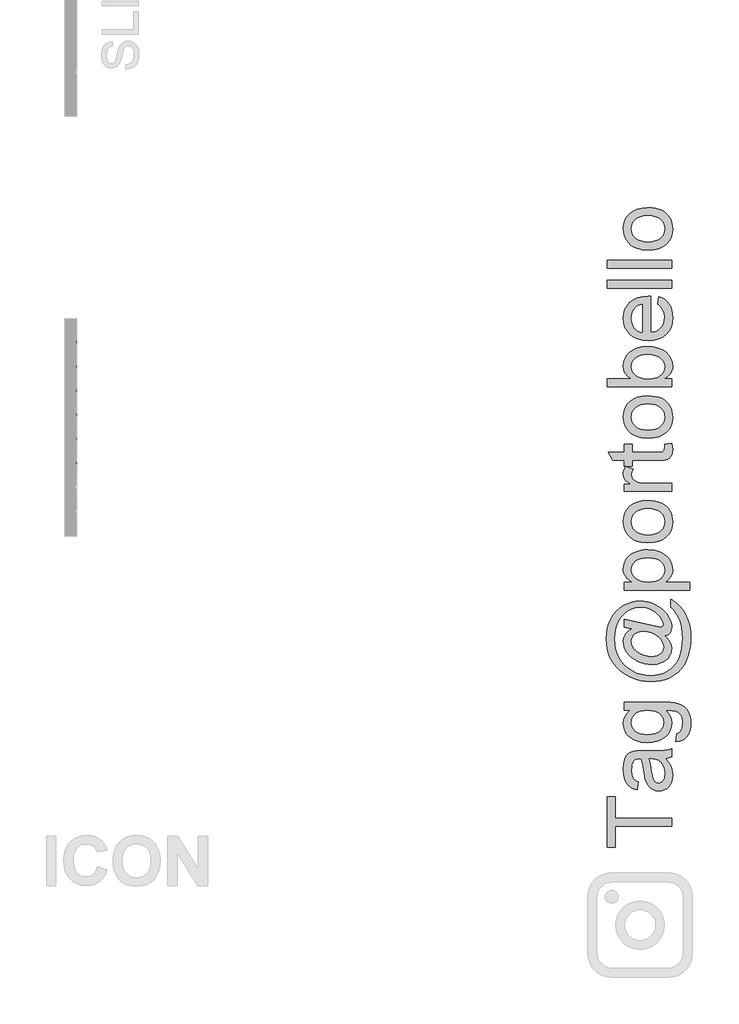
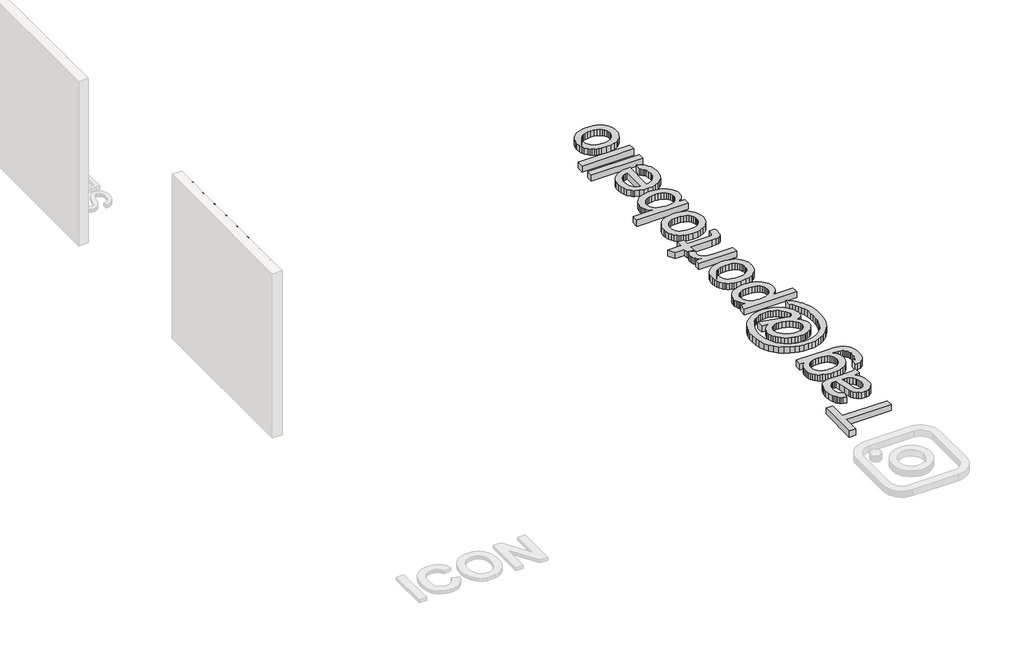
# One storey, part 3 of 4: 20 proxies.
"""IFC4 building model written with IfcOpenShell, lengths in millimetres."""

import ifcopenshell
import ifcopenshell.guid

model = None  # the IFC model being written
_history = None  # IfcOwnerHistory: only IFC2X3 demands one
_inside = {}  # id of a spatial element -> (the spatial element, [elements in it])
_under = {}  # id of a project, library or spatial element -> (it, [spatial elements below it])
_declared = {}  # id of a project -> (the project, [libraries it declares])
_typed = {}  # id of a type object -> (the type object, [elements of that type])
_made_of = {}  # id of a material, layer set ... -> (it, [elements and type objects made of it])


def new_model(schema):
    """Start an empty IFC model of exactly this schema.

    Asked for "IFC4X3", IfcOpenShell would pick the latest addendum, in which some entities
    have other attributes; the version numbers below select the first issue.
    IFC2X3 requires an IfcOwnerHistory on every rooted entity: one is made here for all.
    """
    global model, _history
    if schema == "IFC4X3":
        model = ifcopenshell.file(schema_version=(4, 3, 0, 0))
    else:
        model = ifcopenshell.file(schema=schema)
    _inside.clear()
    _under.clear()
    _declared.clear()
    _typed.clear()
    _made_of.clear()
    _history = None
    if model.schema == "IFC2X3":
        org = make("IfcOrganization", Name="unknown")
        user = make(
            "IfcPersonAndOrganization",
            ThePerson=make("IfcPerson", FamilyName="unknown"),
            TheOrganization=org,
        )
        app = make(
            "IfcApplication",
            ApplicationDeveloper=org,
            Version="unknown",
            ApplicationFullName="unknown",
            ApplicationIdentifier="unknown",
        )
        _history = make(
            "IfcOwnerHistory",
            OwningUser=user,
            OwningApplication=app,
            ChangeAction="ADDED",
            CreationDate=0,
        )
    return model


def make(cls, **values):
    """One entity of the class cls with the attributes given. An attribute that is None is left unset."""
    return model.create_entity(
        cls, **{name: value for name, value in values.items() if value is not None}
    )


def rooted(cls, **values):
    """An entity with a GlobalId (a new one), such as an element, a storey or a relation."""
    return make(cls, GlobalId=ifcopenshell.guid.new(), OwnerHistory=_history, **values)


def si_unit(unit_type, name, prefix=None):
    """IfcSIUnit, for example si_unit("LENGTHUNIT", "METRE", prefix="MILLI")."""
    return make("IfcSIUnit", UnitType=unit_type, Prefix=prefix, Name=name)


def assignment(units):
    """IfcUnitAssignment: the units of a project."""
    return None if units is None else make("IfcUnitAssignment", Units=units)


def point(xyz):
    """IfcCartesianPoint."""
    return None if xyz is None else make("IfcCartesianPoint", Coordinates=xyz)


def direction(xyz):
    """IfcDirection."""
    return None if xyz is None else make("IfcDirection", DirectionRatios=xyz)


def frame(location, z_axis=None, x_axis=None):
    """IfcAxis2Placement3D, a coordinate frame: its origin and axes. An axis left out is left unset."""
    return make(
        "IfcAxis2Placement3D",
        Location=point(location),
        Axis=direction(z_axis),
        RefDirection=direction(x_axis),
    )


def origin():
    """The frame at (0, 0, 0) with its axes left unset."""
    return frame((0.0, 0.0, 0.0))


def origin_with_axes():
    """The frame at (0, 0, 0) with the z axis (0, 0, 1) and the x axis (1, 0, 0) written out."""
    return frame((0.0, 0.0, 0.0), z_axis=(0.0, 0.0, 1.0), x_axis=(1.0, 0.0, 0.0))


def place(relative_to, where):
    """IfcLocalPlacement: puts the frame where relative to a parent placement (None: the world)."""
    return make(
        "IfcLocalPlacement", PlacementRelTo=relative_to, RelativePlacement=where
    )


def context(
    kind, dimensions, precision=None, world=None, true_north=None, identifier=None
):
    """IfcGeometricRepresentationContext, for example the 3D "Model" context."""
    return make(
        "IfcGeometricRepresentationContext",
        ContextIdentifier=identifier,
        ContextType=kind,
        CoordinateSpaceDimension=dimensions,
        Precision=precision,
        WorldCoordinateSystem=world,
        TrueNorth=true_north,
    )


def project(units=None, contexts=None):
    """IfcProject with its units and contexts."""
    return rooted(
        "IfcProject",
        Name="project",
        RepresentationContexts=contexts,
        UnitsInContext=assignment(units),
    )


def spatial(cls, under=None, at=None, **own):
    """A site, building, storey or space (cls), placed at a placement, below another one or the project."""
    s = rooted(cls, ObjectPlacement=at, **own)
    if under is not None:
        _under.setdefault(under.id(), (under, []))[1].append(s)
    return s


def polyline(points):
    """IfcPolyline through the points."""
    return make("IfcPolyline", Points=[point(p) for p in points])


def outline(outer, holes=None, kind="AREA"):
    """IfcArbitraryClosedProfileDef: a profile drawn as a closed curve; with holes, ...WithVoids."""
    if holes is None:
        return make("IfcArbitraryClosedProfileDef", ProfileType=kind, OuterCurve=outer)
    return make(
        "IfcArbitraryProfileDefWithVoids",
        ProfileType=kind,
        OuterCurve=outer,
        InnerCurves=holes,
    )


def extrude(swept, where, along, depth):
    """IfcExtrudedAreaSolid: the profile swept, set in the frame where, extruded along a direction by depth."""
    return make(
        "IfcExtrudedAreaSolid",
        SweptArea=swept,
        Position=where,
        ExtrudedDirection=direction(along),
        Depth=depth,
    )


def shape(context_of_items, identifier, shape_type, items):
    """IfcShapeRepresentation: the items that make up one representation, for example the "Body"."""
    return make(
        "IfcShapeRepresentation",
        ContextOfItems=context_of_items,
        RepresentationIdentifier=identifier,
        RepresentationType=shape_type,
        Items=items,
    )


def source(mapping_origin, context_of_items, identifier, shape_type, items):
    """IfcRepresentationMap: a shape defined once, which mapped items show again and again."""
    return make(
        "IfcRepresentationMap",
        MappingOrigin=mapping_origin,
        MappedRepresentation=shape(context_of_items, identifier, shape_type, items),
    )


def transform(
    local_origin,
    x_axis=None,
    y_axis=None,
    z_axis=None,
    scale=None,
    scale2=None,
    scale3=None,
    uniform=True,
):
    """IfcCartesianTransformationOperator3D, or its non-uniform kind. x_axis, y_axis, z_axis: its Axis1, 2, 3."""
    if uniform:
        return make(
            "IfcCartesianTransformationOperator3D",
            Axis1=direction(x_axis),
            Axis2=direction(y_axis),
            LocalOrigin=point(local_origin),
            Scale=scale,
            Axis3=direction(z_axis),
        )
    return make(
        "IfcCartesianTransformationOperator3DnonUniform",
        Axis1=direction(x_axis),
        Axis2=direction(y_axis),
        LocalOrigin=point(local_origin),
        Scale=scale,
        Axis3=direction(z_axis),
        Scale2=scale2,
        Scale3=scale3,
    )


def mapped(mapping_source, mapping_target):
    """IfcMappedItem: shows the shape of a source again, moved by a transform."""
    return make(
        "IfcMappedItem", MappingSource=mapping_source, MappingTarget=mapping_target
    )


def made_of(thing, what):
    """Note that an element or type object is made of a material, layer set ...; save() writes the relation."""
    if what is not None:
        _made_of.setdefault(what.id(), (what, []))[1].append(thing)
    return thing


def element(
    cls,
    number,
    at=None,
    inside=None,
    cuts=None,
    type_object=None,
    material=None,
    context=None,
    identifier="Body",
    shape_type=None,
    held_by="IfcProductDefinitionShape",
    body=None,
    shapes=None,
    **own,
):
    """One element of the class cls, such as IfcWall. Its Tag is "e" and its number.

    at: its placement. inside: the storey or other place that contains it. cuts: it is an
    opening in that element (IfcRelVoidsElement). A single representation is given by context,
    identifier, shape_type and body (its items); several are given by shapes. held_by: the class
    of the entity that holds the representations. save() writes the other relations.
    """
    e = rooted(cls, Tag="e%d" % number, ObjectPlacement=at, **own)
    if body is not None:
        shapes = [shape(context, identifier, shape_type, body)]
    if shapes is not None:
        e.Representation = make(held_by, Representations=shapes)
    if inside is not None:
        _inside.setdefault(inside.id(), (inside, []))[1].append(e)
    if cuts is not None:
        rooted(
            "IfcRelVoidsElement", RelatingBuildingElement=cuts, RelatedOpeningElement=e
        )
    if type_object is not None:
        _typed.setdefault(type_object.id(), (type_object, []))[1].append(e)
    return made_of(e, material)


def aggregate(whole, parts):
    """IfcRelAggregates: a whole, such as a stair, and the parts it consists of."""
    return rooted("IfcRelAggregates", RelatingObject=whole, RelatedObjects=parts)


def save(model, path):
    """Write the relations noted so far, then the file.

    IfcRelAggregates (storeys below a building ...), IfcRelContainedInSpatialStructure (elements
    in a storey), IfcRelDefinesByType, IfcRelAssociatesMaterial and IfcRelDeclares: one each for
    every whole, place, type object, material and project.
    """
    for whole, parts in _under.values():
        aggregate(whole, parts)
    for where, things in _inside.values():
        rooted(
            "IfcRelContainedInSpatialStructure",
            RelatedElements=things,
            RelatingStructure=where,
        )
    for kind, things in _typed.values():
        rooted("IfcRelDefinesByType", RelatedObjects=things, RelatingType=kind)
    for what, things in _made_of.values():
        rooted("IfcRelAssociatesMaterial", RelatedObjects=things, RelatingMaterial=what)
    for by, libraries in _declared.values():
        rooted("IfcRelDeclares", RelatingContext=by, RelatedDefinitions=libraries)
    model.write(path)


def black_7f78d727(model_context):
    return source(origin(), model_context, "Body", "SweptSolid", [
        extrude(outline(polyline([(1.0, -5.0), (-9.0, -5.0), (-9.0, -2.7289948), (-7.7920635, -2.7289948), (-6.5210583, -4.0), (0.0, -4.0), (0.0, 4.0), (-9.0, 4.0), (-9.0, 23.9106111), (-8.0, 23.9106111), (-8.0, 5.0), (1.0, 5.0), (1.0, -5.0)])), frame((0.0, -600.0, 0.0), z_axis=(0.0, 1.0, 0.0), x_axis=(0.0, 0.0, 1.0)), (0.0, 0.0, 1.0), 1200.0),
    ])


def black_fe5eff52(model_context):
    return source(origin(), model_context, "Body", "SweptSolid", [
        extrude(outline(polyline([(1.0, -5.0), (-9.0, -5.0), (-9.0, -2.7289948), (-7.7920635, -2.7289948), (-6.5210583, -4.0), (0.0, -4.0), (0.0, 4.0), (-9.0, 4.0), (-9.0, 23.9106111), (-8.0, 23.9106111), (-8.0, 5.0), (1.0, 5.0), (1.0, -5.0)])), frame((0.0, -600.0, 0.0), z_axis=(0.0, 1.0, 0.0), x_axis=(0.0, 0.0, 1.0)), (0.0, 0.0, 1.0), 300.0),
    ])


model = new_model("IFC4")

# Units and contexts
model_context = context("Model", 3, world=origin())
ifc_project = project(units=[si_unit("LENGTHUNIT", "METRE", prefix="MILLI")], contexts=[model_context])

# Site, building, storey
site = spatial("IfcSite", under=ifc_project)
building = spatial("IfcBuilding", under=site)
storey = spatial("IfcBuildingStorey", under=building, Name="PORTOBELLO - SHOWROOM", Elevation=0.0)

# Proxies
placement = place(None, origin())
black_shape = black_7f78d727(model_context)
element("IfcBuildingElementProxy", 1, Name="PORTOBELLO - ICON 1X120 : TERRACOTA", ObjectType="PORTOBELLO - ICON 1X120 : TERRACOTA", at=placement, inside=storey, context=model_context, shape_type="MappedRepresentation", body=[
    mapped(black_shape, transform((55225.3154392, 20124.9733076, 1800.0), x_axis=(0.0, 1.0, 0.0), y_axis=(0.0, 0.0, 1.0), z_axis=(1.0, 0.0, 0.0))),
])
element("IfcBuildingElementProxy", 2, Name="PORTOBELLO - ICON 1X120 : TERRACOTA", ObjectType="PORTOBELLO - ICON 1X120 : TERRACOTA", at=placement, inside=storey, context=model_context, shape_type="MappedRepresentation", body=[
    mapped(black_shape, transform((55225.3154392, 20124.9733076, 600.0), x_axis=(0.0, 1.0, 0.0), y_axis=(0.0, 0.0, 1.0), z_axis=(1.0, 0.0, 0.0))),
])
black_2_shape = black_fe5eff52(model_context)
element("IfcBuildingElementProxy", 3, Name="PORTOBELLO - ICON 1X120 : TERRACOTA", ObjectType="PORTOBELLO - ICON 1X120 : TERRACOTA", at=placement, inside=storey, context=model_context, shape_type="MappedRepresentation", body=[
    mapped(black_2_shape, transform((55225.3154392, 20124.9733076, 3000.0), x_axis=(0.0, 1.0, 0.0), y_axis=(0.0, 0.0, 1.0), z_axis=(1.0, 0.0, 0.0))),
])
element("IfcBuildingElementProxy", 4, Name="80mm Arial", ObjectType="80mm Arial", at=placement, inside=storey, context=model_context, shape_type="SweptSolid", body=[
    extrude(outline(polyline([(62608.6356117, 15626.1462378), (61909.1705007, 15626.1462378), (61909.1705007, 15363.8468212), (61809.2469134, 15363.8468212), (61809.2469134, 15988.3692417), (61909.1705007, 15988.3692417), (61909.1705007, 15726.0698251), (62608.6356117, 15726.0698251), (62608.6356117, 15626.1462378)])), origin_with_axes(), (0.0, 0.0, 1.0), 100.0),
    extrude(outline(polyline([(62533.6929213, 16463.0062814), (62574.6284143, 16415.2644698), (62589.7901598, 16390.8629639), (62601.4145713, 16366.1077246), (62616.1981879, 16314.413857), (62621.1260602, 16259.0606784), (62618.1620182, 16214.5695548), (62609.2698923, 16175.5552001), (62594.4496825, 16142.0176142), (62573.7013888, 16113.9567973), (62548.3423632, 16091.7996688), (62519.6899576, 16075.9731485), (62487.7441721, 16066.4772363), (62452.5050066, 16063.3119322), (62411.0816054, 16068.093432), (62373.4638877, 16082.4379313), (62341.2619504, 16104.5645655), (62316.0858903, 16132.6924699), (62297.0574728, 16165.7482464), (62283.2984633, 16202.6584973), (62268.2708925, 16289.1158199), (62252.4626688, 16391.2837846), (62233.9221594, 16462.4207916), (62211.6735482, 16463.0062814), (62187.448909, 16461.2864052), (62167.0787441, 16456.1267766), (62150.5630535, 16447.5273956), (62137.9018372, 16435.4882622), (62125.2650164, 16414.67898), (62116.2387158, 16389.3321521), (62110.8229354, 16359.4477784), (62109.0176753, 16325.0258591), (62113.8235705, 16265.5010659), (62119.8309395, 16242.4718016), (62128.241256, 16223.9312923), (62139.7131962, 16208.6963605), (62154.9054359, 16195.5838293), (62173.8179753, 16184.5936984), (62196.4508142, 16175.7259679), (62183.9603657, 16075.8023806), (62129.3146539, 16093.147515), (62106.3829713, 16105.0219794), (62086.3787375, 16119.0310419), (62068.8994284, 16135.7784889), (62053.5425196, 16155.8681066), (62040.3080113, 16179.299895), (62029.1959034, 16206.0738543), (62014.1195418, 16267.4770938), (62009.094088, 16337.906634), (62013.5340521, 16405.4575161), (62026.8539443, 16459.0054346), (62046.8825735, 16499.3798333), (62071.4487484, 16527.410156), (62101.8210302, 16545.9994562), (62139.26798, 16558.0507873), (62173.8118764, 16561.7100983), (62226.7011189, 16562.9298687), (62351.0201133, 16562.9298687), (62459.3113252, 16564.1984298), (62524.6178298, 16568.0041133), (62567.5293509, 16575.5178987), (62608.6356117, 16587.9107655), (62608.6356117, 16487.9871782), (62573.8965521, 16471.9837912), (62533.6929213, 16463.0062814)]), holes=[polyline([(62333.8457467, 16463.0062814), (62350.4834143, 16395.8701212), (62364.4863779, 16301.8014316), (62372.1465358, 16249.9611916), (62380.6849282, 16215.8320171), (62391.760443, 16193.4614288), (62407.0319678, 16176.8969475), (62425.3285231, 16166.6508765), (62445.4791294, 16163.2355195), (62461.006806, 16165.0956693), (62475.1927352, 16170.6761187), (62488.036917, 16179.9768676), (62499.5393514, 16192.9979161), (62509.016967, 16209.6172872), (62515.7866925, 16229.7130037), (62521.2024729, 16280.3334734), (62515.2255981, 16334.0033689), (62507.7545047, 16358.4963576), (62497.2949739, 16381.4280402), (62470.8747481, 16419.8752017), (62439.4290684, 16446.6125678), (62407.0319678, 16458.4687357), (62362.1444189, 16462.4207916), (62333.8457467, 16463.0062814)])]), origin_with_axes(), (0.0, 0.0, 1.0), 100.0),
    extrude(outline(polyline([(62658.5974054, 16675.3439044), (62671.0878538, 16775.2674917), (62687.9206847, 16779.4878971), (62702.3139748, 16786.2942157), (62714.2677243, 16795.6864474), (62723.781933, 16807.6645922), (62733.5157004, 16827.0467431), (62740.4683915, 16849.6734832), (62746.0305443, 16904.6607307), (62744.4570405, 16935.8624563), (62739.7365292, 16963.3072892), (62731.8690105, 16986.9952295), (62720.8544842, 17006.9262771), (62706.997893, 17023.5151539), (62690.6041794, 17037.1765818), (62671.6733436, 17047.9105609), (62650.2053854, 17055.7170912), (62607.2206781, 17061.1328715), (62533.6929213, 17062.5478051), (62566.4803484, 17029.2968653), (62589.8999391, 16992.1914512), (62603.9516936, 16951.2315628), (62608.6356117, 16906.4172), (62603.1832383, 16851.6312146), (62586.8261178, 16803.395396), (62574.5582775, 16781.7337993), (62559.5642505, 16761.7097442), (62521.3976361, 16726.5742592), (62475.6074571, 16698.6964078), (62425.4748956, 16678.7836568), (62370.9999516, 16666.8360062), (62312.1826252, 16662.853456), (62271.0336724, 16664.6404195), (62231.5070141, 16670.0013102), (62193.6026504, 16678.9361281), (62157.3205812, 16691.444873), (62123.8683793, 16707.3384807), (62094.4536173, 16726.4278867), (62069.0762951, 16748.7130911), (62047.7364128, 16774.1940938), (62030.8303957, 16802.4622717), (62018.7546692, 16833.1090018), (62011.5092333, 16866.1342841), (62009.094088, 16901.5381186), (62014.5586592, 16948.2675208), (62030.9523727, 16990.678936), (62058.2752286, 17028.7723641), (62096.5272269, 17062.5478051), (62021.5845364, 17062.5478051), (62021.5845364, 17162.4713924), (62528.4235133, 17162.4713924), (62591.9308568, 17160.7637139), (62645.448281, 17155.6406785), (62688.975786, 17147.102286), (62722.5133719, 17135.1485365), (62749.5617794, 17119.4927841), (62773.6217496, 17099.8483825), (62794.6932825, 17076.2153319), (62812.776378, 17048.5936323), (62827.2916452, 17017.2638308), (62837.6596932, 16982.5064746), (62843.880522, 16944.3215637), (62845.9541316, 16902.7090981), (62843.0327816, 16853.753615), (62834.2687316, 16809.7382018), (62819.6619816, 16770.6628586), (62799.2125316, 16736.5275853), (62772.8959863, 16708.9546764), (62740.6879501, 16689.5664267), (62702.5884232, 16678.362836), (62658.5974054, 16675.3439044)]), holes=[polyline([(62305.3519112, 16762.7770433), (62354.7587094, 16765.4422415), (62397.0054555, 16773.4378361), (62432.0921497, 16786.7638272), (62460.018792, 16805.4202148), (62481.3220812, 16828.1018445), (62496.5387163, 16853.5035621), (62505.6686974, 16881.6253676), (62508.7120244, 16912.4672609), (62505.686994, 16943.0042117), (62496.6119025, 16970.9918425), (62481.4867502, 16996.4301532), (62460.3115369, 17019.3191438), (62432.659343, 17038.2316832), (62398.1032489, 17051.7406398), (62356.6432546, 17059.8460138), (62308.2793601, 17062.5478051), (62261.9341855, 17059.7667287), (62221.6512696, 17051.4234995), (62187.4306124, 17037.5181175), (62159.2722138, 17018.0505827), (62137.2858532, 16994.667585), (62121.5813099, 16969.0158145), (62112.1585839, 16941.0952711), (62109.0176753, 16910.9059549), (62112.1097931, 16881.2228434), (62121.3861467, 16853.8450978), (62136.8467359, 16828.7727182), (62158.4915608, 16806.0057046), (62186.2230397, 16787.0931652), (62219.9435912, 16773.5842086), (62259.653215, 16765.4788346), (62305.3519112, 16762.7770433)])]), origin_with_axes(), (0.0, 0.0, 1.0), 100.0),
])
element("IfcBuildingElementProxy", 5, Name="80mm Arial", ObjectType="80mm Arial", at=placement, inside=storey, context=model_context, shape_type="SweptSolid", body=[
    extrude(outline(polyline([(62517.1040445, 17993.5543457), (62554.4046219, 17956.3025591), (62583.5571333, 17914.8059717), (62602.3659921, 17871.1137977), (62608.6356117, 17827.2752512), (62606.8425493, 17803.3433569), (62601.4633621, 17779.7529982), (62592.49805, 17756.5041753), (62579.946613, 17733.5968881), (62563.6748765, 17711.9276678), (62543.5486657, 17692.3930456), (62519.5679806, 17674.9930215), (62491.7328211, 17659.7275955), (62461.2385623, 17647.3042345), (62429.2805791, 17638.4304052), (62395.8588714, 17633.1061076), (62360.9734393, 17631.3313417), (62317.1348929, 17634.0819239), (62273.2475556, 17642.3336703), (62229.3114275, 17656.086581), (62185.3265085, 17675.3406561), (62144.0616775, 17698.6870606), (62108.2858131, 17724.7169599), (62077.9989152, 17753.430354), (62053.2009839, 17784.8272429), (62033.904217, 17817.328024), (62020.120812, 17849.3530946), (62011.850769, 17880.9024547), (62009.094088, 17911.9761045), (62010.6614929, 17935.1395435), (62015.3637076, 17957.7906789), (62034.1725664, 18001.5560392), (62048.3523968, 18022.1823558), (62065.8134094, 18041.3205527), (62110.5789813, 18075.1325869), (62021.5845364, 18093.477933), (62021.5845364, 18193.4015203), (62388.101132, 18110.6522995), (62472.606822, 18093.477933), (62486.390227, 18096.2834048), (62498.075627, 18104.6998202), (62506.0529251, 18117.0682916), (62508.7120244, 18131.7299312), (62506.7359965, 18147.4039803), (62500.8079126, 18165.3468021), (62477.0955769, 18208.0387645), (62454.7310875, 18237.6364921), (62428.8170663, 18263.9774329), (62399.3535135, 18287.0615868), (62366.3404289, 18306.8889539), (62331.2781301, 18322.8130558), (62295.6669346, 18334.1874144), (62259.5068425, 18341.0120295), (62222.7978538, 18343.2869012), (62180.3742409, 18340.3594523), (62139.3655617, 18331.5771058), (62099.771816, 18316.9398616), (62061.593004, 18296.4477197), (62025.9940062, 18270.143372), (61994.1397035, 18238.0695106), (61966.0300957, 18200.2261354), (61941.6651829, 18156.6132464), (61921.9841882, 18108.9019291), (61907.9263349, 18058.7632687), (61899.4916229, 18006.1972654), (61896.6800523, 17951.203919), (61900.2478806, 17888.4711298), (61910.9513654, 17828.4950215), (61928.7905068, 17771.2755943), (61953.7653048, 17716.8128481), (61985.4000489, 17666.7168797), (62023.2190287, 17622.597786), (62067.2222441, 17584.4555671), (62117.4096953, 17552.2902229), (62171.6406852, 17526.7604294), (62227.7745168, 17508.5248626), (62285.8111902, 17497.5835226), (62345.7507053, 17493.9364092), (62407.4405909, 17497.5469295), (62464.6783147, 17508.3784902), (62517.4638767, 17526.4310914), (62565.797277, 17551.7047331), (62608.8917635, 17583.8151876), (62645.9605845, 17622.3782273), (62677.00374, 17667.3938522), (62702.0212299, 17718.8620622), (62721.275305, 17775.0263881), (62735.0282157, 17834.1303606), (62743.2799621, 17896.1739796), (62746.0305443, 17961.1572451), (62743.2982587, 18029.4033963), (62735.1014019, 18091.8678361), (62721.439974, 18148.5505644), (62702.3139748, 18199.4515812), (62679.2847106, 18244.4489095), (62653.9134872, 18283.4205723), (62626.2003048, 18316.3665695), (62596.1451633, 18343.2869012), (62596.1451633, 18443.2104885), (62625.4562449, 18426.9814439), (62655.035676, 18405.8123295), (62684.8834565, 18379.7031451), (62714.9995865, 18348.6538907), (62743.6702886, 18313.5428011), (62769.1817856, 18275.2481109), (62791.5340773, 18233.7698201), (62810.7271638, 18189.1079286), (62826.1389622, 18140.4878824), (62837.1473896, 18087.1351271), (62843.7524461, 18029.0496629), (62845.9541316, 17966.2314898), (62844.0085978, 17907.3836691), (62838.1719967, 17850.8656098), (62828.4443281, 17796.6773119), (62814.8255922, 17744.8187753), (62797.3096899, 17695.997467), (62775.8905225, 17650.9208536), (62750.56809, 17609.5889352), (62721.3423923, 17572.0017118), (62688.975786, 17538.4946202), (62654.2306275, 17509.4030973), (62617.1069168, 17484.727143), (62577.604654, 17464.4667575), (62525.0569472, 17444.572303), (62470.4600262, 17430.3619784), (62413.813891, 17421.8357837), (62355.1185416, 17418.9937187), (62289.3607219, 17422.3846803), (62225.1886037, 17432.5575651), (62162.6021869, 17449.512373), (62101.6014715, 17473.249104), (62032.0562649, 17509.7080399), (61971.15923, 17553.1196667), (61918.910367, 17603.4839846), (61875.3096757, 17660.8009935), (61840.942646, 17724.8267393), (61816.3947677, 17795.317268), (61801.6660407, 17872.2725795), (61796.756465, 17955.6926739), (61800.1962174, 18021.1211556), (61810.5154746, 18083.1342804), (61827.7142365, 18141.7320481), (61851.7925033, 18196.9144589), (61882.6892863, 18247.5715216), (61920.3435971, 18292.5932453), (61964.7554357, 18331.97963), (62015.924802, 18365.7306757), (62063.8007883, 18388.6989514), (62113.7503842, 18405.1048627), (62165.7735898, 18414.9484094), (62219.8704049, 18418.2295917), (62258.6011631, 18416.528012), (62296.2402267, 18411.4232731), (62332.7875959, 18402.9153749), (62368.2432706, 18391.0043174), (62402.6072509, 18375.6901006), (62435.8795367, 18356.9727246), (62468.060128, 18334.8521892), (62499.1490249, 18309.3284946), (62547.0494066, 18259.5130734), (62581.263965, 18207.4532747), (62593.2390605, 18180.5817338), (62601.7927001, 18153.1490986), (62606.9248838, 18125.155369), (62608.6356117, 18096.6005451), (62605.7569537, 18063.276419), (62597.1209796, 18037.0757519), (62583.1668068, 18017.4130538), (62564.3335525, 18003.702835), (62545.5978799, 17997.6527741), (62517.1040445, 17993.5543457)]), holes=[polyline([(62362.5347454, 17731.254929), (62395.2489862, 17733.4444168), (62424.1087528, 17740.0128802), (62449.114045, 17750.9603191), (62470.2648629, 17766.2867336), (62487.0854961, 17784.4430153), (62499.1002341, 17803.8800558), (62506.3090769, 17824.5978553), (62508.7120244, 17846.5964136), (62504.4672236, 17877.6517668), (62491.7328211, 17910.3172168), (62470.6551894, 17943.0314577), (62441.380701, 17974.2331833), (62403.5190292, 18001.9219703), (62356.6798477, 18024.0973953), (62305.2543296, 18038.6614533), (62253.6336483, 18043.5161393), (62221.2060535, 18041.2412676), (62192.6207352, 18034.4166525), (62167.8776936, 18023.0422939), (62146.9769287, 18007.118192), (62130.3697553, 17987.9251055), (62118.5074886, 17966.7437933), (62111.3901286, 17943.5742555), (62109.0176753, 17918.4164919), (62113.1404991, 17884.8972027), (62125.5089704, 17853.4271276), (62146.9769287, 17823.4451723), (62178.3982129, 17794.3902425), (62218.7238208, 17768.6286926), (62266.9047497, 17748.5268772), (62316.8665434, 17735.5729161), (62362.5347454, 17731.254929)])]), origin_with_axes(), (0.0, 0.0, 1.0), 100.0),
    extrude(outline(polyline([(62833.4636831, 18555.6245242), (62021.5845364, 18555.6245242), (62021.5845364, 18655.5481115), (62119.5564911, 18655.5481115), (62071.2291897, 18688.1403753), (62052.2434642, 18705.9002316), (62036.7096888, 18724.6359043), (62024.6278634, 18744.8840921), (62015.9979882, 18767.1814942), (62010.820063, 18791.5281104), (62009.094088, 18817.9239408), (62011.5092333, 18852.7727798), (62018.7546692, 18885.4992184), (62030.8303957, 18916.1032565), (62047.7364128, 18944.5848943), (62069.0336031, 18970.3220487), (62094.2828494, 18992.692637), (62123.4841517, 19011.6966591), (62156.6375098, 19027.334115), (62192.6085375, 19039.5440162), (62230.2628483, 19048.2653742), (62269.6004422, 19053.4981891), (62310.6213192, 19055.2424607), (62354.4781622, 19053.2725315), (62396.0784301, 19047.3627442), (62435.4221228, 19037.5130986), (62472.5092404, 19023.7235947), (62506.3700654, 19006.1832971), (62536.0348803, 18985.08127), (62561.5036853, 18960.4175134), (62582.7764803, 18932.1920275), (62599.5544215, 18901.7892514), (62611.5386652, 18870.5936247), (62618.7292114, 18838.6051472), (62621.1260602, 18805.8238189), (62619.5220621, 18782.2395592), (62614.7100681, 18759.8872675), (62606.690078, 18738.7669438), (62595.4620919, 18718.8785882), (62566.4071621, 18683.7735974), (62530.5703092, 18655.5481115), (62833.4636831, 18655.5481115), (62833.4636831, 18555.6245242)]), holes=[polyline([(62319.7939922, 18655.5481115), (62367.9505257, 18658.2499028), (62409.3739269, 18666.3552768), (62444.0641958, 18679.8642335), (62472.0213322, 18698.7767728), (62493.5380813, 18721.5437864), (62508.9071877, 18746.616166), (62518.1286516, 18773.9939116), (62521.2024729, 18803.6770231), (62518.0188722, 18833.7870543), (62508.4680704, 18861.6649057), (62492.5500673, 18887.3105773), (62470.2648629, 18910.7240693), (62441.2953171, 18930.2342961), (62405.3242894, 18944.1701723), (62362.3517798, 18952.5316981), (62312.3777885, 18955.3188734), (62264.6359769, 18952.5987855), (62223.2857619, 18944.4385218), (62188.3271436, 18930.8380824), (62159.7601219, 18911.7974672), (62137.5603015, 18888.9755639), (62121.7032869, 18864.0312602), (62112.1890782, 18836.964556), (62109.0176753, 18807.7754515), (62112.3903403, 18778.6778297), (62122.5083354, 18751.3000842), (62139.3716605, 18725.6422148), (62162.9803157, 18701.7042216), (62193.0171606, 18681.5109234), (62229.165055, 18667.087139), (62271.4239989, 18658.4328684), (62319.7939922, 18655.5481115)])]), origin_with_axes(), (0.0, 0.0, 1.0), 100.0),
    extrude(outline(polyline([(62315.1100741, 19142.6755995), (62239.081788, 19148.0791822), (62205.0105526, 19154.8336605), (62173.5679223, 19164.2899302), (62144.7538972, 19176.4479912), (62118.5684771, 19191.3078435), (62095.0116622, 19208.8694872), (62074.0834524, 19229.1329221), (62045.6506055, 19267.2141525), (62025.3414291, 19309.2474389), (62013.1559233, 19355.2327812), (62009.094088, 19405.1701794), (62014.0402568, 19460.2977005), (62028.8787631, 19510.143616), (62053.609607, 19554.7079258), (62088.2327885, 19593.99063), (62131.5773279, 19626.0522938), (62182.4722459, 19648.9534821), (62240.9175424, 19662.6941951), (62306.9132173, 19667.2744328), (62360.4001473, 19665.249614), (62407.8614117, 19659.1751577), (62449.2970106, 19649.0510638), (62484.7069439, 19634.8773323), (62515.2926855, 19616.8308299), (62542.2557091, 19595.0884234), (62565.5960148, 19569.6501126), (62585.3136026, 19540.5158978), (62600.9815528, 19508.8201652), (62612.1729458, 19475.6973012), (62618.8877816, 19441.147306), (62621.1260602, 19405.1701794), (62616.1981879, 19349.2376099), (62601.4145713, 19298.9281817), (62576.7752101, 19254.2418948), (62542.2801046, 19215.1787493), (62498.5147443, 19183.4586213), (62446.0646191, 19160.801387), (62384.9297291, 19147.2070464), (62315.1100741, 19142.6755995)]), holes=[polyline([(62314.9149108, 19242.5991868), (62363.3824858, 19245.4900426), (62405.3486848, 19254.1626098), (62440.8135078, 19268.6168885), (62469.7769548, 19288.8528786), (62492.2756189, 19313.4678443), (62508.3460933, 19341.0590497), (62517.988378, 19371.6264947), (62521.2024729, 19405.1701794), (62517.9700814, 19438.5430963), (62508.2729071, 19468.9885643), (62492.1109499, 19496.5065834), (62469.4842099, 19521.0971538), (62440.2341168, 19541.3331439), (62404.2021006, 19555.7874226), (62361.3881612, 19564.4599898), (62311.7922987, 19567.3508455), (62264.8616344, 19564.4416932), (62223.9932287, 19555.7142364), (62189.1870817, 19541.1684749), (62160.4431933, 19520.8044089), (62137.9445292, 19496.1223558), (62121.8740548, 19468.6226332), (62112.2317702, 19438.3052411), (62109.0176753, 19405.1701794), (62112.2195725, 19371.6264947), (62121.825264, 19341.0590497), (62137.8347499, 19313.4678443), (62160.2480301, 19288.8528786), (62189.1260932, 19268.6168885), (62224.5299277, 19254.1626098), (62266.4595336, 19245.4900426), (62314.9149108, 19242.5991868)])]), origin_with_axes(), (0.0, 0.0, 1.0), 100.0),
    extrude(outline(polyline([(62608.6356117, 19779.6884685), (62021.5845364, 19779.6884685), (62021.5845364, 19867.1216074), (62108.4321855, 19867.1216074), (62058.0800653, 19899.4211263), (62040.6617447, 19914.6194649), (62028.4152504, 19929.183523), (62013.9243786, 19959.0435012), (62009.094088, 19991.635765), (62011.0213251, 20016.4214986), (62016.8030366, 20041.4023954), (62026.4392224, 20066.5784555), (62039.9298825, 20091.9496788), (62129.5098172, 20058.576762), (62114.1407108, 20023.4473758), (62109.0176753, 19988.3179897), (62113.9455475, 19958.4824068), (62128.7291642, 19931.8182269), (62152.2463366, 19910.2770825), (62183.374876, 19895.8106061), (62239.1915673, 19883.6616934), (62300.0825033, 19879.6120558), (62608.6356117, 19879.6120558), (62608.6356117, 19779.6884685)])), origin_with_axes(), (0.0, 0.0, 1.0), 100.0),
    extrude(outline(polyline([(62525.3009012, 20366.7395439), (62611.5630606, 20379.2299923), (62618.7353103, 20339.660642), (62621.1260602, 20304.4824651), (62616.978841, 20256.5210948), (62604.5371834, 20220.7574281), (62585.3623934, 20195.4837864), (62561.0157772, 20178.9924912), (62519.2020495, 20169.9173998), (62447.6259252, 20166.8923693), (62121.5081237, 20166.8923693), (62121.5081237, 20091.9496788), (62021.5845364, 20091.9496788), (62021.5845364, 20166.8923693), (61878.9201959, 20166.8923693), (61820.1760558, 20266.8159566), (62021.5845364, 20266.8159566), (62021.5845364, 20366.7395439), (62121.5081237, 20366.7395439), (62121.5081237, 20266.8159566), (62444.6984763, 20266.8159566), (62477.583485, 20268.1333086), (62496.221576, 20272.0853645), (62506.5408332, 20278.9892647), (62514.4693405, 20289.1621494), (62519.5191898, 20303.579835), (62521.2024729, 20323.2181377), (62525.3009012, 20366.7395439)])), origin_with_axes(), (0.0, 0.0, 1.0), 100.0),
    extrude(outline(polyline([(62315.1100741, 20441.6822343), (62239.081788, 20447.085817), (62205.0105526, 20453.8402953), (62173.5679223, 20463.296565), (62144.7538972, 20475.454626), (62118.5684771, 20490.3144783), (62095.0116622, 20507.876122), (62074.0834524, 20528.1395569), (62045.6506055, 20566.2207874), (62025.3414291, 20608.2540737), (62013.1559233, 20654.239416), (62009.094088, 20704.1768142), (62014.0402568, 20759.3043353), (62028.8787631, 20809.1502508), (62053.609607, 20853.7145606), (62088.2327885, 20892.9972648), (62131.5773279, 20925.0589286), (62182.4722459, 20947.9601169), (62240.9175424, 20961.70083), (62306.9132173, 20966.2810676), (62360.4001473, 20964.2562488), (62407.8614117, 20958.1817925), (62449.2970106, 20948.0576986), (62484.7069439, 20933.8839671), (62515.2926855, 20915.8374647), (62542.2557091, 20894.0950582), (62565.5960148, 20868.6567475), (62585.3136026, 20839.5225326), (62600.9815528, 20807.8268), (62612.1729458, 20774.703936), (62618.8877816, 20740.1539408), (62621.1260602, 20704.1768142), (62616.1981879, 20648.2442447), (62601.4145713, 20597.9348165), (62576.7752101, 20553.2485297), (62542.2801046, 20514.1853841), (62498.5147443, 20482.4652561), (62446.0646191, 20459.8080218), (62384.9297291, 20446.2136812), (62315.1100741, 20441.6822343)]), holes=[polyline([(62314.9149108, 20541.6058216), (62363.3824858, 20544.4966774), (62405.3486848, 20553.1692446), (62440.8135078, 20567.6235233), (62469.7769548, 20587.8595134), (62492.2756189, 20612.4744791), (62508.3460933, 20640.0656845), (62517.988378, 20670.6331295), (62521.2024729, 20704.1768142), (62517.9700814, 20737.5497311), (62508.2729071, 20767.9951991), (62492.1109499, 20795.5132183), (62469.4842099, 20820.1037886), (62440.2341168, 20840.3397787), (62404.2021006, 20854.7940574), (62361.3881612, 20863.4666246), (62311.7922987, 20866.3574803), (62264.8616344, 20863.448328), (62223.9932287, 20854.7208712), (62189.1870817, 20840.1751097), (62160.4431933, 20819.8110437), (62137.9445292, 20795.1289906), (62121.8740548, 20767.629268), (62112.2317702, 20737.3118759), (62109.0176753, 20704.1768142), (62112.2195725, 20670.6331295), (62121.825264, 20640.0656845), (62137.8347499, 20612.4744791), (62160.2480301, 20587.8595134), (62189.1260932, 20567.6235233), (62224.5299277, 20553.1692446), (62266.4595336, 20544.4966774), (62314.9149108, 20541.6058216)])]), origin_with_axes(), (0.0, 0.0, 1.0), 100.0),
    extrude(outline(polyline([(62608.6356117, 21178.6186906), (62608.6356117, 21078.6951033), (61809.2469134, 21078.6951033), (61809.2469134, 21178.6186906), (62105.6998999, 21178.6186906), (62063.4348572, 21211.4793039), (62033.245541, 21248.5847181), (62022.6792803, 21268.7292254), (62015.1319512, 21289.934933), (62009.094088, 21335.5299488), (62014.5342638, 21387.0042577), (62030.8547911, 21435.6486993), (62057.0310628, 21478.6821974), (62092.038472, 21513.3236754), (62135.5354827, 21540.4757635), (62187.1805595, 21561.0410916), (62244.8269063, 21573.9950527), (62306.3277275, 21578.3130398), (62377.2939666, 21573.8425815), (62439.7218133, 21560.4312064), (62493.6112675, 21538.0789147), (62538.9623292, 21506.7857063), (62574.9089615, 21469.2228783), (62600.5851274, 21428.0617278), (62615.990827, 21383.3022547), (62621.1260602, 21334.944459), (62619.4702219, 21310.7289681), (62614.5027071, 21287.8491257), (62606.2235159, 21266.3049319), (62594.6326481, 21246.0963865), (62579.7301038, 21227.2234898), (62561.515883, 21209.6862415), (62515.1524119, 21178.6186906), (62608.6356117, 21178.6186906)]), holes=[polyline([(62311.0116457, 21178.6186906), (62356.0455671, 21180.3263691), (62394.3463562, 21185.4494046), (62425.9140129, 21193.9877971), (62450.7485373, 21205.9415465), (62481.5721341, 21230.153988), (62503.588989, 21258.2940901), (62516.7991019, 21290.3618526), (62521.2024729, 21326.3572757), (62517.9578837, 21356.2416494), (62508.2241163, 21384.028018), (62492.0011706, 21409.7163816), (62469.2890466, 21433.3067403), (62440.1487329, 21453.0304269), (62404.641218, 21467.1187744), (62362.7665017, 21475.571783), (62314.5245843, 21478.3894525), (62265.3678391, 21475.6876612), (62223.0905987, 21467.5822872), (62187.692863, 21454.0733305), (62159.1746322, 21435.1607912), (62137.2309635, 21412.418173), (62121.5569145, 21387.4189796), (62112.1524851, 21360.1632111), (62109.0176753, 21330.6508674), (62112.2622644, 21300.7664937), (62121.9960318, 21272.9801251), (62138.2189775, 21247.2917615), (62160.9311015, 21223.7014029), (62189.7786703, 21203.9777163), (62224.4079506, 21189.8893687), (62264.8189424, 21181.4363601), (62311.0116457, 21178.6186906)])]), origin_with_axes(), (0.0, 0.0, 1.0), 100.0),
    extrude(outline(polyline([(62433.769334, 22101.7408935), (62446.2597824, 22199.7128483), (62485.4997946, 22184.6913764), (62520.0802841, 22164.4126943), (62550.0012509, 22138.8768019), (62575.2626949, 22108.0836994), (62595.3279172, 22072.3505269), (62609.6602188, 22031.9944248), (62618.2595998, 21987.015393), (62621.1260602, 21937.4134316), (62616.1798914, 21875.4125046), (62601.341385, 21820.1691053), (62576.6105411, 21771.6832338), (62541.9873597, 21729.95489), (62498.4354592, 21696.3990076), (62446.9184584, 21672.4305202), (62387.4363571, 21658.0494278), (62319.9891555, 21653.2557303), (62250.2548844, 21658.0982186), (62188.7906563, 21672.6256835), (62135.5964713, 21696.838125), (62112.1006448, 21712.5762119), (62090.6723292, 21730.7355431), (62054.9818487, 21772.3541075), (62029.4886483, 21819.729988), (62014.1927281, 21872.8631846), (62009.094088, 21931.7536972), (62014.1805304, 21988.7474669), (62029.4398575, 22040.2888632), (62054.8720693, 22086.377886), (62090.4771659, 22127.0145353), (62135.3037264, 22160.18619), (62188.4003298, 22183.8802291), (62249.7669763, 22198.0966526), (62319.4036657, 22202.8354604), (62346.3361951, 22202.2499706), (62346.3361951, 21753.1793176), (62386.2104879, 21758.9671279), (62421.1325131, 21770.4756612), (62451.1022707, 21787.7049174), (62476.1197606, 21810.6548966), (62495.8434472, 21838.0570376), (62509.9317948, 21868.6427791), (62518.3848033, 21902.4121214), (62521.2024729, 21939.3650642), (62515.9818557, 21992.5470516), (62500.3200044, 22037.3370189), (62488.3296619, 22056.5849951), (62473.2411026, 22073.7349662), (62455.0543266, 22088.7869324), (62433.769334, 22101.7408935)]), holes=[polyline([(62246.4126078, 21753.1793176), (62246.4126078, 22102.9118731), (62218.138331, 22097.7766399), (62193.6209469, 22089.3968176), (62172.8604555, 22077.7724061), (62155.8568568, 22062.9034055), (62135.3647149, 22035.6537358), (62120.7274707, 22004.6471735), (62111.9451241, 21969.8837184), (62109.0176753, 21931.3633707), (62111.3535355, 21896.2278857), (62118.3611162, 21864.0076518), (62130.0404173, 21834.7026691), (62146.3914389, 21808.3129375), (62166.6579233, 21786.1680067), (62190.0836129, 21769.5974265), (62216.6685078, 21758.6011968), (62246.4126078, 21753.1793176)])]), origin_with_axes(), (0.0, 0.0, 1.0), 100.0),
    extrude(outline(polyline([(62608.6356117, 22302.7590477), (61809.2469134, 22302.7590477), (61809.2469134, 22402.682635), (62608.6356117, 22402.682635), (62608.6356117, 22302.7590477)])), origin_with_axes(), (0.0, 0.0, 1.0), 100.0),
    extrude(outline(polyline([(62608.6356117, 22552.5680159), (61809.2469134, 22552.5680159), (61809.2469134, 22652.4916032), (62608.6356117, 22652.4916032), (62608.6356117, 22552.5680159)])), origin_with_axes(), (0.0, 0.0, 1.0), 100.0),
    extrude(outline(polyline([(62315.1100741, 22777.3960873), (62239.081788, 22782.79967), (62205.0105526, 22789.5541483), (62173.5679223, 22799.010418), (62144.7538972, 22811.168479), (62118.5684771, 22826.0283313), (62095.0116622, 22843.5899749), (62074.0834524, 22863.8534099), (62045.6506055, 22901.9346403), (62025.3414291, 22943.9679267), (62013.1559233, 22989.953269), (62009.094088, 23039.8906672), (62014.0402568, 23095.0181883), (62028.8787631, 23144.8641038), (62053.609607, 23189.4284136), (62088.2327885, 23228.7111178), (62131.5773279, 23260.7727815), (62182.4722459, 23283.6739699), (62240.9175424, 23297.4146829), (62306.9132173, 23301.9949206), (62360.4001473, 23299.9701018), (62407.8614117, 23293.8956455), (62449.2970106, 23283.7715515), (62484.7069439, 23269.59782), (62515.2926855, 23251.5513177), (62542.2557091, 23229.8089111), (62565.5960148, 23204.3706004), (62585.3136026, 23175.2363855), (62600.9815528, 23143.5406529), (62612.1729458, 23110.417789), (62618.8877816, 23075.8677938), (62621.1260602, 23039.8906672), (62616.1981879, 22983.9580977), (62601.4145713, 22933.6486695), (62576.7752101, 22888.9623826), (62542.2801046, 22849.8992371), (62498.5147443, 22818.1791091), (62446.0646191, 22795.5218748), (62384.9297291, 22781.9275342), (62315.1100741, 22777.3960873)]), holes=[polyline([(62314.9149108, 22877.3196746), (62363.3824858, 22880.2105303), (62405.3486848, 22888.8830975), (62440.8135078, 22903.3373762), (62469.7769548, 22923.5733664), (62492.2756189, 22948.1883321), (62508.3460933, 22975.7795375), (62517.988378, 23006.3469825), (62521.2024729, 23039.8906672), (62517.9700814, 23073.2635841), (62508.2729071, 23103.7090521), (62492.1109499, 23131.2270712), (62469.4842099, 23155.8176415), (62440.2341168, 23176.0536317), (62404.2021006, 23190.5079104), (62361.3881612, 23199.1804776), (62311.7922987, 23202.0713333), (62264.8616344, 23199.162181), (62223.9932287, 23190.4347241), (62189.1870817, 23175.8889627), (62160.4431933, 23155.5248966), (62137.9445292, 23130.8428436), (62121.8740548, 23103.343121), (62112.2317702, 23073.0257288), (62109.0176753, 23039.8906672), (62112.2195725, 23006.3469825), (62121.825264, 22975.7795375), (62137.8347499, 22948.1883321), (62160.2480301, 22923.5733664), (62189.1260932, 22903.3373762), (62224.5299277, 22888.8830975), (62266.4595336, 22880.2105303), (62314.9149108, 22877.3196746)])]), origin_with_axes(), (0.0, 0.0, 1.0), 100.0),
])
element("IfcBuildingElementProxy", 6, Name="PORTOBELLO - ICON 1X120 : BONE", ObjectType="PORTOBELLO - ICON 1X120 : BONE", at=placement, inside=storey, context=model_context, shape_type="MappedRepresentation", body=[
    mapped(black_shape, transform((55225.3154392, 20424.9733076, 1800.0), x_axis=(0.0, 1.0, 0.0), y_axis=(0.0, 0.0, 1.0), z_axis=(1.0, 0.0, 0.0))),
])
element("IfcBuildingElementProxy", 7, Name="PORTOBELLO - ICON 1X120 : BONE", ObjectType="PORTOBELLO - ICON 1X120 : BONE", at=placement, inside=storey, context=model_context, shape_type="MappedRepresentation", body=[
    mapped(black_shape, transform((55225.3154392, 20424.9733076, 600.0), x_axis=(0.0, 1.0, 0.0), y_axis=(0.0, 0.0, 1.0), z_axis=(1.0, 0.0, 0.0))),
])
element("IfcBuildingElementProxy", 8, Name="PORTOBELLO - ICON 1X120 : BONE", ObjectType="PORTOBELLO - ICON 1X120 : BONE", at=placement, inside=storey, context=model_context, shape_type="MappedRepresentation", body=[
    mapped(black_2_shape, transform((55225.3154392, 20424.9733076, 3000.0), x_axis=(0.0, 1.0, 0.0), y_axis=(0.0, 0.0, 1.0), z_axis=(1.0, 0.0, 0.0))),
])
element("IfcBuildingElementProxy", 9, Name="PORTOBELLO - ICON 1X120 : GOLD", ObjectType="PORTOBELLO - ICON 1X120 : GOLD", at=placement, inside=storey, context=model_context, shape_type="MappedRepresentation", body=[
    mapped(black_shape, transform((55225.3154392, 20724.9733076, 600.0), x_axis=(0.0, 1.0, 0.0), y_axis=(0.0, 0.0, 1.0), z_axis=(1.0, 0.0, 0.0))),
])
element("IfcBuildingElementProxy", 10, Name="PORTOBELLO - ICON 1X120 : GOLD", ObjectType="PORTOBELLO - ICON 1X120 : GOLD", at=placement, inside=storey, context=model_context, shape_type="MappedRepresentation", body=[
    mapped(black_shape, transform((55225.3154392, 20724.9733076, 1800.0), x_axis=(0.0, 1.0, 0.0), y_axis=(0.0, 0.0, 1.0), z_axis=(1.0, 0.0, 0.0))),
])
element("IfcBuildingElementProxy", 11, Name="PORTOBELLO - ICON 1X120 : GOLD", ObjectType="PORTOBELLO - ICON 1X120 : GOLD", at=placement, inside=storey, context=model_context, shape_type="MappedRepresentation", body=[
    mapped(black_2_shape, transform((55225.3154392, 20724.9733076, 3000.0), x_axis=(0.0, 1.0, 0.0), y_axis=(0.0, 0.0, 1.0), z_axis=(1.0, 0.0, 0.0))),
])
element("IfcBuildingElementProxy", 12, Name="PORTOBELLO - ICON 1X120 : GREY", ObjectType="PORTOBELLO - ICON 1X120 : GREY", at=placement, inside=storey, context=model_context, shape_type="MappedRepresentation", body=[
    mapped(black_shape, transform((55225.3154392, 21024.9733076, 600.0), x_axis=(0.0, 1.0, 0.0), y_axis=(0.0, 0.0, 1.0), z_axis=(1.0, 0.0, 0.0))),
])
element("IfcBuildingElementProxy", 13, Name="PORTOBELLO - ICON 1X120 : GREY", ObjectType="PORTOBELLO - ICON 1X120 : GREY", at=placement, inside=storey, context=model_context, shape_type="MappedRepresentation", body=[
    mapped(black_shape, transform((55225.3154392, 21024.9733076, 1800.0), x_axis=(0.0, 1.0, 0.0), y_axis=(0.0, 0.0, 1.0), z_axis=(1.0, 0.0, 0.0))),
])
element("IfcBuildingElementProxy", 14, Name="PORTOBELLO - ICON 1X120 : GREY", ObjectType="PORTOBELLO - ICON 1X120 : GREY", at=placement, inside=storey, context=model_context, shape_type="MappedRepresentation", body=[
    mapped(black_2_shape, transform((55225.3154392, 21024.9733076, 3000.0), x_axis=(0.0, 1.0, 0.0), y_axis=(0.0, 0.0, 1.0), z_axis=(1.0, 0.0, 0.0))),
])
element("IfcBuildingElementProxy", 15, Name="PORTOBELLO - ICON 1X120 : SAGE GREEN", ObjectType="PORTOBELLO - ICON 1X120 : SAGE GREEN", at=placement, inside=storey, context=model_context, shape_type="MappedRepresentation", body=[
    mapped(black_shape, transform((55225.3154392, 21624.9733076, 600.0), x_axis=(0.0, 1.0, 0.0), y_axis=(0.0, 0.0, 1.0), z_axis=(1.0, 0.0, 0.0))),
])
element("IfcBuildingElementProxy", 16, Name="PORTOBELLO - ICON 1X120 : SAGE GREEN", ObjectType="PORTOBELLO - ICON 1X120 : SAGE GREEN", at=placement, inside=storey, context=model_context, shape_type="MappedRepresentation", body=[
    mapped(black_shape, transform((55225.3154392, 21624.9733076, 1800.0), x_axis=(0.0, 1.0, 0.0), y_axis=(0.0, 0.0, 1.0), z_axis=(1.0, 0.0, 0.0))),
])
element("IfcBuildingElementProxy", 17, Name="PORTOBELLO - ICON 1X120 : SAGE GREEN", ObjectType="PORTOBELLO - ICON 1X120 : SAGE GREEN", at=placement, inside=storey, context=model_context, shape_type="MappedRepresentation", body=[
    mapped(black_2_shape, transform((55225.3154392, 21624.9733076, 3000.0), x_axis=(0.0, 1.0, 0.0), y_axis=(0.0, 0.0, 1.0), z_axis=(1.0, 0.0, 0.0))),
])
element("IfcBuildingElementProxy", 18, Name="PORTOBELLO - ICON 1X120 : WHITE", ObjectType="PORTOBELLO - ICON 1X120 : WHITE", at=placement, inside=storey, context=model_context, shape_type="MappedRepresentation", body=[
    mapped(black_shape, transform((55225.3154392, 21324.9733076, 600.0), x_axis=(0.0, 1.0, 0.0), y_axis=(0.0, 0.0, 1.0), z_axis=(1.0, 0.0, 0.0))),
])
element("IfcBuildingElementProxy", 19, Name="PORTOBELLO - ICON 1X120 : WHITE", ObjectType="PORTOBELLO - ICON 1X120 : WHITE", at=placement, inside=storey, context=model_context, shape_type="MappedRepresentation", body=[
    mapped(black_shape, transform((55225.3154392, 21324.9733076, 1800.0), x_axis=(0.0, 1.0, 0.0), y_axis=(0.0, 0.0, 1.0), z_axis=(1.0, 0.0, 0.0))),
])
element("IfcBuildingElementProxy", 20, Name="PORTOBELLO - ICON 1X120 : WHITE", ObjectType="PORTOBELLO - ICON 1X120 : WHITE", at=placement, inside=storey, context=model_context, shape_type="MappedRepresentation", body=[
    mapped(black_2_shape, transform((55225.3154392, 21324.9733076, 3000.0), x_axis=(0.0, 1.0, 0.0), y_axis=(0.0, 0.0, 1.0), z_axis=(1.0, 0.0, 0.0))),
])

save(model, "model.ifc")
